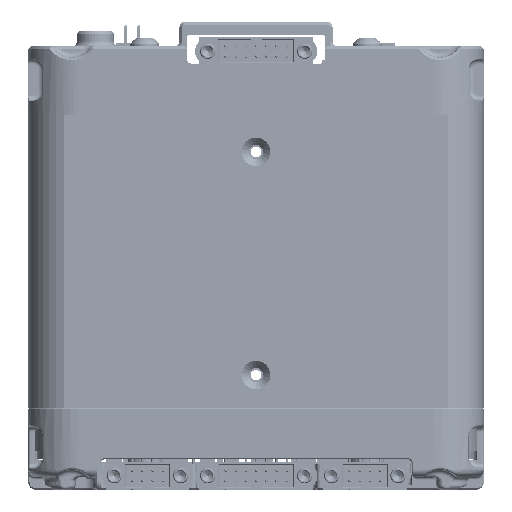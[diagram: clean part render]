
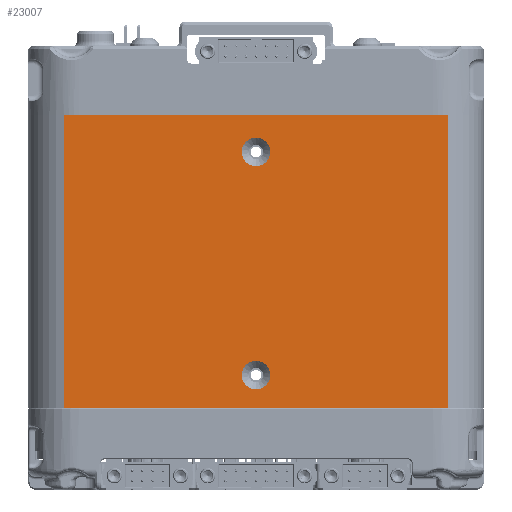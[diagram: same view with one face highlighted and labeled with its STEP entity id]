
A CAD part, left-side view. The second image highlights one B-rep face of the part: STEP entity #23007.
In plain terms, the highlighted planar face has unit normal (-1, 0, 0).
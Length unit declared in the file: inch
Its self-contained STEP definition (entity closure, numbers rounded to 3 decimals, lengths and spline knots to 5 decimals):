
#77 = AXIS2_PLACEMENT_3D ( 'NONE', #303720, #76607, #108056 ) ;
#500 = EDGE_CURVE ( 'NONE', #204395, #403605, #273013, .T. ) ;
#699 = CARTESIAN_POINT ( 'NONE',  ( -2.12377, 0.47781, 3.98008 ) ) ;
#6122 = CARTESIAN_POINT ( 'NONE',  ( -2.12377, -2.49069, 3.98008 ) ) ;
#10582 = ORIENTED_EDGE ( 'NONE', *, *, #101545, .F. ) ;
#23007 = ADVANCED_FACE ( 'NONE', ( #26168, #115947, #206070 ), #114924, .F. ) ;
#25806 = EDGE_LOOP ( 'NONE', ( #390629, #171548 ) ) ;
#26168 = FACE_BOUND ( 'NONE', #25806, .T. ) ;
#30341 = EDGE_CURVE ( 'NONE', #313286, #243519, #331177, .T. ) ;
#32236 = CARTESIAN_POINT ( 'NONE',  ( -2.12377, -1.00644, 1.866 ) ) ;
#42675 = EDGE_LOOP ( 'NONE', ( #292945, #356269, #328976, #125790 ) ) ;
#52223 = CARTESIAN_POINT ( 'NONE',  ( -2.12377, -2.49069, 1.72115 ) ) ;
#76607 = DIRECTION ( 'NONE',  ( -1., 0., 0. ) ) ;
#81561 = EDGE_CURVE ( 'NONE', #403605, #204395, #239850, .T. ) ;
#83574 = DIRECTION ( 'NONE',  ( -1., 0., 0. ) ) ;
#92305 = DIRECTION ( 'NONE',  ( -1., 0., 0. ) ) ;
#101545 = EDGE_CURVE ( 'NONE', #225365, #201954, #353991, .T. ) ;
#108056 = DIRECTION ( 'NONE',  ( 0., 0., -1. ) ) ;
#108716 = EDGE_CURVE ( 'NONE', #243519, #113930, #297697, .T. ) ;
#113930 = VERTEX_POINT ( 'NONE', #201288 ) ;
#114924 = PLANE ( 'NONE',  #164603 ) ;
#115947 = FACE_OUTER_BOUND ( 'NONE', #42675, .T. ) ;
#120188 = EDGE_LOOP ( 'NONE', ( #342080, #10582 ) ) ;
#125790 = ORIENTED_EDGE ( 'NONE', *, *, #30341, .T. ) ;
#141723 = CARTESIAN_POINT ( 'NONE',  ( -2.12377, -2.49069, 3.98008 ) ) ;
#151556 = VECTOR ( 'NONE', #223937, 39.37008 ) ;
#164603 = AXIS2_PLACEMENT_3D ( 'NONE', #435003, #434592, #433253 ) ;
#165434 = AXIS2_PLACEMENT_3D ( 'NONE', #294768, #92305, #328560 ) ;
#171548 = ORIENTED_EDGE ( 'NONE', *, *, #500, .F. ) ;
#178431 = CARTESIAN_POINT ( 'NONE',  ( -2.12377, -1.00644, 3.58766 ) ) ;
#178966 = DIRECTION ( 'NONE',  ( -1., 0., 0. ) ) ;
#179699 = CARTESIAN_POINT ( 'NONE',  ( -2.12377, -2.49069, 1.72115 ) ) ;
#186817 = VECTOR ( 'NONE', #208771, 39.37008 ) ;
#188824 = VECTOR ( 'NONE', #271198, 39.37008 ) ;
#194776 = VECTOR ( 'NONE', #290040, 39.37008 ) ;
#201288 = CARTESIAN_POINT ( 'NONE',  ( -2.12377, 0.47781, 3.98008 ) ) ;
#201954 = VERTEX_POINT ( 'NONE', #360431 ) ;
#204395 = VERTEX_POINT ( 'NONE', #309786 ) ;
#206070 = FACE_BOUND ( 'NONE', #120188, .T. ) ;
#208771 = DIRECTION ( 'NONE',  ( 0., 1., 0. ) ) ;
#223937 = DIRECTION ( 'NONE',  ( 0., 0., 1. ) ) ;
#225365 = VERTEX_POINT ( 'NONE', #178431 ) ;
#226522 = CARTESIAN_POINT ( 'NONE',  ( -2.12377, 0.47781, 1.72115 ) ) ;
#228698 = EDGE_CURVE ( 'NONE', #113930, #386914, #357566, .T. ) ;
#239850 = CIRCLE ( 'NONE', #165434, 0.11 ) ;
#243519 = VERTEX_POINT ( 'NONE', #246667 ) ;
#246667 = CARTESIAN_POINT ( 'NONE',  ( -2.12377, -2.49069, 3.98008 ) ) ;
#255227 = EDGE_CURVE ( 'NONE', #386914, #313286, #284355, .T. ) ;
#260153 = AXIS2_PLACEMENT_3D ( 'NONE', #380962, #178966, #414857 ) ;
#271198 = DIRECTION ( 'NONE',  ( 0., 0., -1. ) ) ;
#273013 = CIRCLE ( 'NONE', #77, 0.11 ) ;
#284355 = LINE ( 'NONE', #52223, #194776 ) ;
#286027 = CARTESIAN_POINT ( 'NONE',  ( -2.12377, -1.00644, 3.69766 ) ) ;
#288552 = CIRCLE ( 'NONE', #260153, 0.11 ) ;
#290040 = DIRECTION ( 'NONE',  ( 0., -1., 0. ) ) ;
#292945 = ORIENTED_EDGE ( 'NONE', *, *, #108716, .T. ) ;
#294768 = CARTESIAN_POINT ( 'NONE',  ( -2.12377, -1.00644, 1.976 ) ) ;
#297697 = LINE ( 'NONE', #6122, #186817 ) ;
#303720 = CARTESIAN_POINT ( 'NONE',  ( -2.12377, -1.00644, 1.976 ) ) ;
#309786 = CARTESIAN_POINT ( 'NONE',  ( -2.12377, -1.00644, 2.086 ) ) ;
#313286 = VERTEX_POINT ( 'NONE', #179699 ) ;
#318163 = AXIS2_PLACEMENT_3D ( 'NONE', #286027, #83574, #319868 ) ;
#319868 = DIRECTION ( 'NONE',  ( 0., 1., 0. ) ) ;
#328560 = DIRECTION ( 'NONE',  ( 0., 0., -1. ) ) ;
#328976 = ORIENTED_EDGE ( 'NONE', *, *, #255227, .T. ) ;
#331177 = LINE ( 'NONE', #141723, #151556 ) ;
#342080 = ORIENTED_EDGE ( 'NONE', *, *, #417853, .F. ) ;
#353991 = CIRCLE ( 'NONE', #318163, 0.11 ) ;
#356269 = ORIENTED_EDGE ( 'NONE', *, *, #228698, .T. ) ;
#357566 = LINE ( 'NONE', #699, #188824 ) ;
#360431 = CARTESIAN_POINT ( 'NONE',  ( -2.12377, -1.00644, 3.80766 ) ) ;
#380962 = CARTESIAN_POINT ( 'NONE',  ( -2.12377, -1.00644, 3.69766 ) ) ;
#386914 = VERTEX_POINT ( 'NONE', #226522 ) ;
#390629 = ORIENTED_EDGE ( 'NONE', *, *, #81561, .F. ) ;
#403605 = VERTEX_POINT ( 'NONE', #32236 ) ;
#414857 = DIRECTION ( 'NONE',  ( 0., 1., 0. ) ) ;
#417853 = EDGE_CURVE ( 'NONE', #201954, #225365, #288552, .T. ) ;
#433253 = DIRECTION ( 'NONE',  ( 0., 0., 1. ) ) ;
#434592 = DIRECTION ( 'NONE',  ( 1., 0., 0. ) ) ;
#435003 = CARTESIAN_POINT ( 'NONE',  ( -2.12377, -1.00644, 1.976 ) ) ;
